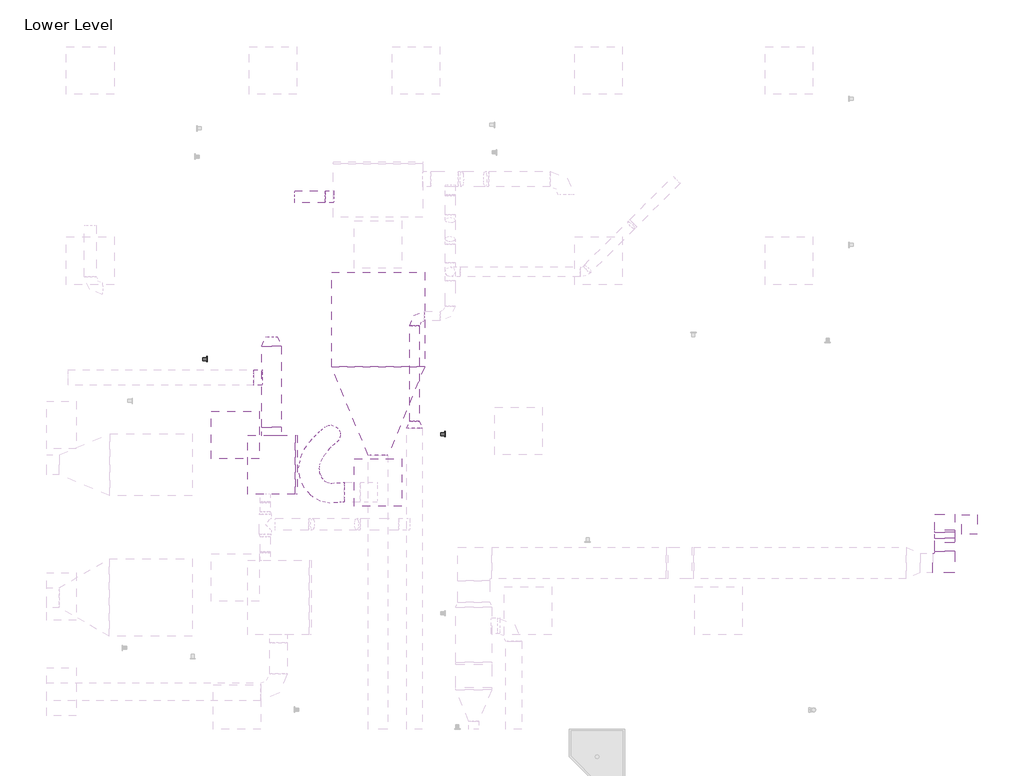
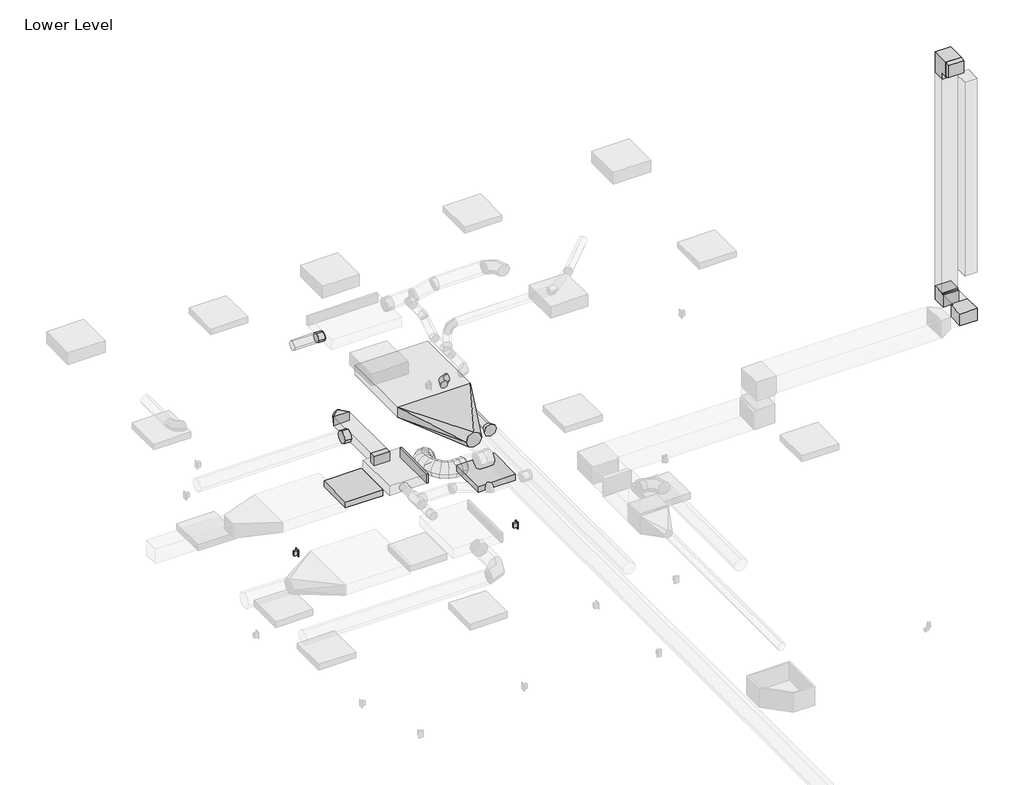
# One storey, part 4 of 5: 12 duct fittings, 9 duct segments, 2 light fixtures, 2 switching devices.
"""IFC4 building model written with IfcOpenShell, lengths in millimetres."""

from ifc_helpers import new_model, si_unit, point, frame, frame_2d, origin, place, context, project, spatial, polyline, circle_curve, ellipse_curve, trimmed, segment, composite_curve, outline, extrude, transform, mapped, element, save
from ifc_brep_helpers import plane_surface, cylinder_surface, advanced_brep
from components import rectangular_elbow_mitered_transition_standard_34e7224c, rectangular_elbow_mitered_standard_f09b78ec, rectangular_elbow_mitered_standard_d7b64f5d, rectangular_endcap_standard_43f25f61, rectangular_takeoff_standard_c6066038, rectangular_transition_angle_45_degree_c4f24900, rectangular_to_round_transition_angle_45_degree_c21d7c10, rectangular_to_round_transition_angle_45_degree_677d3a23, round_elbow_1_d_c80420c1, round_takeoff_standard_d3b0d0f9, round_takeoff_standard_0a2b6d05, round_transition_angle_45_degree_a4d0e481, troffer_corner_insert_2x2_3lamp_e67c7f8f, duplex_receptacle_countertop_10251bba

model = new_model("IFC4")

# Units and contexts
model_context = context("Model", 3, world=origin())
ifc_project = project(units=[si_unit("LENGTHUNIT", "METRE", prefix="MILLI")], contexts=[model_context])

# Site, building, storey
site = spatial("IfcSite", under=ifc_project)
building = spatial("IfcBuilding", under=site)
storey = spatial("IfcBuildingStorey", under=building, Name="Lower Level", Elevation=29972.0)

# Duct fittings
placement = place(None, origin())
rectangular_elbow_mitered_transition_standard_shape = rectangular_elbow_mitered_transition_standard_34e7224c(model_context)
element("IfcDuctFitting", 1, ObjectType="Rectangular Elbow - Mitered - Transition : Standard", at=placement, inside=storey, context=model_context, shape_type="MappedRepresentation", body=[
    mapped(rectangular_elbow_mitered_transition_standard_shape, transform((-6347.3126806, 7505.3293332, 37693.6), x_axis=(0.0, 0.0, 1.0), y_axis=(0.0, -1.0, 0.0), z_axis=(1.0, 0.0, 0.0))),
])
rectangular_elbow_mitered_standard_shape = rectangular_elbow_mitered_standard_f09b78ec(model_context)
element("IfcDuctFitting", 2, ObjectType="Rectangular Elbow - Mitered : Standard", at=placement, inside=storey, context=model_context, shape_type="MappedRepresentation", body=[
    mapped(rectangular_elbow_mitered_standard_shape, transform((-6347.3126806, 6984.6293332, 33629.6), x_axis=(1.0, 0.0, 0.0), y_axis=(0.0, 1.0, 0.0), z_axis=(0.0, 0.0, 1.0))),
])
rectangular_elbow_mitered_standard_2_shape = rectangular_elbow_mitered_standard_d7b64f5d(model_context)
element("IfcDuctFitting", 3, ObjectType="Rectangular Elbow - Mitered : Standard", at=placement, inside=storey, context=model_context, shape_type="MappedRepresentation", body=[
    mapped(rectangular_elbow_mitered_standard_2_shape, transform((-6347.3126806, 7505.3293332, 33629.6), x_axis=(0.0, 0.0, -1.0), y_axis=(0.0, -1.0, 0.0), z_axis=(-1.0, 0.0, 0.0))),
])
rectangular_endcap_standard_shape = rectangular_endcap_standard_43f25f61(model_context)
element("IfcDuctFitting", 4, ObjectType="Rectangular Endcap : Standard", at=placement, inside=storey, context=model_context, shape_type="MappedRepresentation", body=[
    mapped(rectangular_endcap_standard_shape, transform((-14665.2337034, 8243.4520797, 33121.6), x_axis=(1.0, 0.0, 0.0), y_axis=(0.0, 1.0, 0.0), z_axis=(0.0, 0.0, 1.0))),
])
rectangular_takeoff_standard_shape = rectangular_takeoff_standard_c6066038(model_context)
element("IfcDuctFitting", 5, ObjectType="Rectangular Takeoff : Standard", at=placement, inside=storey, context=model_context, shape_type="MappedRepresentation", body=[
    mapped(rectangular_takeoff_standard_shape, transform((-14970.033703, 8618.7395797, 33121.6), x_axis=(0.0, 1.0, 0.0), y_axis=(1.0, 0.0, 0.0), z_axis=(0.0, 0.0, -1.0))),
])
rectangular_transition_angle_45_degree_shape = rectangular_transition_angle_45_degree_c4f24900(model_context)
element("IfcDuctFitting", 6, ObjectType="Rectangular Transition - Angle : 45 Degree", at=placement, inside=storey, context=model_context, shape_type="MappedRepresentation", body=[
    mapped(rectangular_transition_angle_45_degree_shape, transform((-6347.3126806, 7302.1293332, 37693.6), x_axis=(0.0, -1.0, 0.0), y_axis=(1.0, 0.0, 0.0), z_axis=(0.0, 0.0, 1.0))),
])
rectangular_to_round_transition_angle_45_degree_shape = rectangular_to_round_transition_angle_45_degree_c21d7c10(model_context)
element("IfcDuctFitting", 7, ObjectType="Rectangular to Round Transition - Angle : 45 Degree", at=placement, inside=storey, context=model_context, shape_type="MappedRepresentation", body=[
    mapped(rectangular_to_round_transition_angle_45_degree_shape, transform((-13605.5079607, 9497.2083308, 33125.965625), x_axis=(0.0, -1.0, 0.0), y_axis=(1.0, 0.0, 0.0), z_axis=(0.0, 0.0, 1.0))),
])
rectangular_to_round_transition_angle_45_degree_2_shape = rectangular_to_round_transition_angle_45_degree_677d3a23(model_context)
element("IfcDuctFitting", 8, ObjectType="Rectangular to Round Transition - Angle : 45 Degree", at=placement, inside=storey, context=model_context, shape_type="MappedRepresentation", body=[
    mapped(rectangular_to_round_transition_angle_45_degree_2_shape, transform((-14970.033703, 9761.7395797, 33121.6), x_axis=(0.0, 1.0, 0.0), y_axis=(-1.0, 0.0, 0.0), z_axis=(0.0, 0.0, 1.0))),
])
round_elbow_1_d_shape = round_elbow_1_d_c80420c1(model_context)
element("IfcDuctFitting", 9, ObjectType="Round Elbow : 1 D", at=placement, inside=storey, context=model_context, shape_type="MappedRepresentation", body=[
    mapped(round_elbow_1_d_shape, transform((-13138.544811, 10147.8938374, 32918.4), x_axis=(-1.0, 0.0, 0.0), y_axis=(0.0, -1.0, 0.0), z_axis=(0.0, 0.0, 1.0))),
])
round_takeoff_standard_shape = round_takeoff_standard_d3b0d0f9(model_context)
element("IfcDuctFitting", 10, ObjectType="Round Takeoff : Standard", at=placement, inside=storey, context=model_context, shape_type="MappedRepresentation", body=[
    mapped(round_takeoff_standard_shape, transform((-15097.033703, 9360.8945005, 33121.6), x_axis=(-1.0, 0.0, 0.0), y_axis=(0.0, 1.0, 0.0), z_axis=(0.0, 0.0, -1.0))),
])
round_takeoff_standard_2_shape = round_takeoff_standard_0a2b6d05(model_context)
element("IfcDuctFitting", 11, ObjectType="Round Takeoff : Standard", at=placement, inside=storey, context=model_context, shape_type="MappedRepresentation", body=[
    mapped(round_takeoff_standard_2_shape, transform((-14180.8079607, 11673.8820005, 33121.6), x_axis=(-1.0, 0.0, 0.0), y_axis=(0.0, 1.0, 0.0), z_axis=(0.0, 0.0, -1.0))),
])
round_transition_angle_45_degree_shape = round_transition_angle_45_degree_a4d0e481(model_context)
element("IfcDuctFitting", 12, ObjectType="Round Transition - Angle : 45 Degree", at=placement, inside=storey, context=model_context, shape_type="MappedRepresentation", body=[
    mapped(round_transition_angle_45_degree_shape, transform((-13138.544811, 8801.6938374, 32918.4), x_axis=(0.0, -1.0, 0.0), y_axis=(1.0, 0.0, 0.0), z_axis=(0.0, 0.0, 1.0))),
])

# Duct segments
element("IfcDuctSegment", 13, ObjectType="Flex - Round", at=placement, inside=storey, context=model_context, shape_type="AdvancedBrep", body=[
    advanced_brep(
    [(-14037.3079605, 7763.6991771, 33125.8664063), (-14037.3079605, 7890.6991771, 32998.8664063), (-14037.3079605, 8017.6991771, 33125.8664063), (-14037.3079605, 7890.6991771, 33252.8664063), (-14040.9920083, 7763.6991771, 33125.8664063), (-14045.0423151, 7890.6991771, 32998.8664063), (-14050.0146519, 8017.6991771, 33125.8664063), (-14045.9643451, 7890.6991771, 33252.8664063), (-14321.2846893, 8695.563435, 32769.175), (-14145.4265263, 8732.0587291, 32769.175), (-14108.9312321, 8556.2005661, 32769.175), (-14284.7893951, 8519.7052719, 32769.175), (-14119.58986, 7758.1081083, 33125.2950512), (-14126.5972662, 7884.8977546, 32998.2735551), (-14135.1998695, 8011.6395151, 33125.2471654), (-14128.1924633, 7884.8498688, 33252.2686616), (-14225.5060669, 7752.5984317, 33124.7320137), (-14218.0674383, 7880.1395492, 32997.7873109), (-14208.9395831, 8007.803634, 33124.8551742), (-14216.3782117, 7880.2625165, 33251.799877), (-14349.2226435, 7775.3196166, 33127.0502738), (-14306.7437824, 7896.4254154, 32999.4489704), (-14255.7287503, 8016.3967049, 33125.7319318), (-14298.2076115, 7895.2909061, 33253.3332352), (-14462.7192682, 7846.2863307, 33133.252861), (-14384.307358, 7944.9240568, 33003.6878175), (-14294.1283697, 8040.4070649, 33127.8304699), (-14372.5402799, 7941.7693389, 33257.3955134), (-14547.8206041, 7947.8223241, 33138.4069089), (-14443.8431141, 8015.9572793, 33007.2935205), (-14330.9025979, 8084.2830834, 33130.0576516), (-14434.880088, 8016.1481282, 33261.17104), (-14602.6772442, 8069.2170113, 33138.0158328), (-14481.2164139, 8098.6623089, 33007.0270841), (-14356.2082048, 8140.2829811, 33129.8772464), (-14477.6690352, 8110.8376835, 33260.8659951), (-14621.3719284, 8202.6166104, 33127.1461156), (-14493.0254609, 8182.9280887, 33000.1609076), (-14364.2698133, 8197.8081757, 33125.1899565), (-14492.6162808, 8217.4966974, 33252.1751645), (-14598.480399, 8330.6774108, 33102.2923605), (-14478.7118444, 8263.0019522, 32984.6203504), (-14353.5761466, 8257.6311563, 33113.5796456), (-14473.3447013, 8325.3066149, 33231.2516557), (-14548.4441978, 8440.3669796, 33065.8906429), (-14444.5039259, 8337.9926934, 32959.7338292), (-14323.1698818, 8324.2878967, 33091.4588563), (-14427.1101536, 8426.6621829, 33197.6156701), (-14486.5511669, 8530.9053424, 33019.9282394), (-14398.9643943, 8404.6088306, 32925.915703), (-14276.7252307, 8392.2280608, 33056.968579), (-14364.3120032, 8518.5245726, 33150.9811154), (-14423.7636394, 8602.7999632, 32965.1804845), (-14352.0530385, 8458.3245011, 32885.011219), (-14222.2419806, 8454.6139001, 33009.4617613), (-14293.9525816, 8599.0893622, 33089.6310268), (-14370.0613539, 8654.7547782, 32903.1223169), (-14314.1877161, 8494.9576872, 32841.254189), (-14168.702514, 8506.4111943, 32947.5917468), (-14224.5761518, 8666.2082853, 33009.4598747), (-14333.5480554, 8685.9686114, 32835.2414671), (-14290.0874716, 8515.5600717, 32796.4500998), (-14126.965206, 8542.0908351, 32869.9990872), (-14170.4257899, 8712.4993749, 32908.7904545), (-14321.2846893, 8695.563435, 32790.7822465), (-14284.7893951, 8519.7052719, 32777.2426207), (-14108.9312321, 8556.2005661, 32804.6192872), (-14145.4265263, 8732.0587291, 32818.158913)],
    [
        (0, 1, circle_curve(frame((-14037.3079605, 7890.6991771, 33125.8664063), z_axis=(1.0, 0.0, 0.0), x_axis=(0.0, -1.0, 0.0)), 127.0)),
        (1, 2, circle_curve(frame((-14037.3079605, 7890.6991771, 33125.8664063), z_axis=(1.0, 0.0, 0.0), x_axis=(0.0, -1.0, 0.0)), 127.0)),
        (2, 3, circle_curve(frame((-14037.3079605, 7890.6991771, 33125.8664063), z_axis=(1.0, 0.0, 0.0), x_axis=(0.0, -1.0, 0.0)), 127.0)),
        (3, 0, circle_curve(frame((-14037.3079605, 7890.6991771, 33125.8664063), z_axis=(1.0, 0.0, 0.0), x_axis=(0.0, -1.0, 0.0)), 127.0)),
        (0, 4),
        (4, 5, ellipse_curve(frame((-14045.5033301, 7890.6991771, 33125.8664063), z_axis=(0.9993631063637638, 0.03549959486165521, 0.0036277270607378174), x_axis=(0.03568447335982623, -0.9941854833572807, -0.10159647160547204)), 127.080937, 127.0)),
        (5, 1),
        (5, 6, ellipse_curve(frame((-14045.5033301, 7890.6991771, 33125.8664063), z_axis=(0.9993631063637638, 0.03549959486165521, 0.0036277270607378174), x_axis=(0.03568447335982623, -0.9941854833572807, -0.10159647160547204)), 127.080937, 127.0)),
        (6, 2),
        (6, 7, ellipse_curve(frame((-14045.5033301, 7890.6991771, 33125.8664063), z_axis=(0.9993631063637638, 0.03549959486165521, 0.0036277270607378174), x_axis=(0.03568447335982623, -0.9941854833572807, -0.10159647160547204)), 127.080937, 127.0)),
        (7, 3),
        (7, 4, ellipse_curve(frame((-14045.5033301, 7890.6991771, 33125.8664063), z_axis=(0.9993631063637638, 0.03549959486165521, 0.0036277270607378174), x_axis=(0.03568447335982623, -0.9941854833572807, -0.10159647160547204)), 127.080937, 127.0)),
        (8, 9, circle_curve(frame((-14215.1079607, 8625.8820005, 32769.175), z_axis=(0.0, 0.0, -1.0), x_axis=(-0.8360372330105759, 0.5486727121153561, 0.0)), 127.0)),
        (9, 10, circle_curve(frame((-14215.1079607, 8625.8820005, 32769.175), z_axis=(0.0, 0.0, -1.0), x_axis=(-0.8360372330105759, 0.5486727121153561, 0.0)), 127.0)),
        (10, 11, circle_curve(frame((-14215.1079607, 8625.8820005, 32769.175), z_axis=(0.0, 0.0, -1.0), x_axis=(-0.8360372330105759, 0.5486727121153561, 0.0)), 127.0)),
        (11, 8, circle_curve(frame((-14215.1079607, 8625.8820005, 32769.175), z_axis=(0.0, 0.0, -1.0), x_axis=(-0.8360372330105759, 0.5486727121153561, 0.0)), 127.0)),
        (4, 12),
        (12, 13, ellipse_curve(frame((-14127.3948648, 7884.8738117, 33125.2711083), z_axis=(0.9980901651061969, 0.06145391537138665, 0.0062800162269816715), x_axis=(-0.06177396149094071, 0.9929191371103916, 0.10146706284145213)), 127.0058168, 127.0)),
        (13, 5),
        (13, 14, ellipse_curve(frame((-14127.3948648, 7884.8738117, 33125.2711083), z_axis=(0.9980901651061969, 0.06145391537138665, 0.0062800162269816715), x_axis=(-0.06177396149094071, 0.9929191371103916, 0.10146706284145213)), 127.0058168, 127.0)),
        (14, 6),
        (14, 15, ellipse_curve(frame((-14127.3948648, 7884.8738117, 33125.2711083), z_axis=(0.9980901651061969, 0.06145391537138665, 0.0062800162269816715), x_axis=(-0.06177396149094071, 0.9929191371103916, 0.10146706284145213)), 127.0058168, 127.0)),
        (15, 7),
        (15, 12, ellipse_curve(frame((-14127.3948648, 7884.8738117, 33125.2711083), z_axis=(0.9980901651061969, 0.06145391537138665, 0.0062800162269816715), x_axis=(-0.06177396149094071, 0.9929191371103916, 0.10146706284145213)), 127.0058168, 127.0)),
        (12, 16),
        (16, 17, ellipse_curve(frame((-14217.222825, 7880.2010329, 33124.793594), z_axis=(0.9978781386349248, -0.06477343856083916, -0.0066047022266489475), x_axis=(0.06510929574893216, 0.9927206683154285, 0.10132351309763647)), 127.8802283, 127.0)),
        (17, 13),
        (17, 18, ellipse_curve(frame((-14217.222825, 7880.2010329, 33124.793594), z_axis=(0.9978781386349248, -0.06477343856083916, -0.0066047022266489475), x_axis=(0.06510929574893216, 0.9927206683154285, 0.10132351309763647)), 127.8802283, 127.0)),
        (18, 14),
        (18, 19, ellipse_curve(frame((-14217.222825, 7880.2010329, 33124.793594), z_axis=(0.9978781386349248, -0.06477343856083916, -0.0066047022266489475), x_axis=(0.06510929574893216, 0.9927206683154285, 0.10132351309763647)), 127.8802283, 127.0)),
        (19, 15),
        (19, 16, ellipse_curve(frame((-14217.222825, 7880.2010329, 33124.793594), z_axis=(0.9978781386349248, -0.06477343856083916, -0.0066047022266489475), x_axis=(0.06510929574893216, 0.9927206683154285, 0.10132351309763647)), 127.8802283, 127.0)),
        (16, 20),
        (20, 21, ellipse_curve(frame((-14302.4756969, 7895.8581608, 33126.3911028), z_axis=(0.9317749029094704, -0.36153868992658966, -0.03294398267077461), x_axis=(0.3630167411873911, 0.9288276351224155, 0.0741489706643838)), 129.3023413, 127.0)),
        (21, 17),
        (21, 22, ellipse_curve(frame((-14302.4756969, 7895.8581608, 33126.3911028), z_axis=(0.9317749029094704, -0.36153868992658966, -0.03294398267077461), x_axis=(0.3630167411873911, 0.9288276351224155, 0.0741489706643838)), 129.3023413, 127.0)),
        (22, 18),
        (22, 23, ellipse_curve(frame((-14302.4756969, 7895.8581608, 33126.3911028), z_axis=(0.9317749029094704, -0.36153868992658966, -0.03294398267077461), x_axis=(0.3630167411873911, 0.9288276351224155, 0.0741489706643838)), 129.3023413, 127.0)),
        (23, 19),
        (23, 20, ellipse_curve(frame((-14302.4756969, 7895.8581608, 33126.3911028), z_axis=(0.9317749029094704, -0.36153868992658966, -0.03294398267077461), x_axis=(0.3630167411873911, 0.9288276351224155, 0.0741489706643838)), 129.3023413, 127.0)),
        (20, 24),
        (24, 25, ellipse_curve(frame((-14378.423819, 7943.3466978, 33130.5416655), z_axis=(0.7537108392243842, -0.655790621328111, -0.04311185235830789), x_axis=(0.6554451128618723, 0.7548711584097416, -0.02369046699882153)), 128.5837899, 127.0)),
        (25, 21),
        (25, 26, ellipse_curve(frame((-14378.423819, 7943.3466978, 33130.5416655), z_axis=(0.7537108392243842, -0.655790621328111, -0.04311185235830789), x_axis=(0.6554451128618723, 0.7548711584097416, -0.02369046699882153)), 128.5837899, 127.0)),
        (26, 22),
        (26, 27, ellipse_curve(frame((-14378.423819, 7943.3466978, 33130.5416655), z_axis=(0.7537108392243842, -0.655790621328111, -0.04311185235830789), x_axis=(0.6554451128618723, 0.7548711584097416, -0.02369046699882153)), 128.5837899, 127.0)),
        (27, 23),
        (27, 24, ellipse_curve(frame((-14378.423819, 7943.3466978, 33130.5416655), z_axis=(0.7537108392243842, -0.655790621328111, -0.04311185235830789), x_axis=(0.6554451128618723, 0.7548711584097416, -0.02369046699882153)), 128.5837899, 127.0)),
        (24, 28),
        (28, 29, ellipse_curve(frame((-14439.361601, 8016.0527037, 33134.2322802), z_axis=(0.5318975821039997, -0.846614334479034, -0.01814196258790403), x_axis=(0.8354693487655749, 0.5281489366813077, -0.1518211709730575)), 128.2213297, 127.0)),
        (29, 25),
        (29, 30, ellipse_curve(frame((-14439.361601, 8016.0527037, 33134.2322802), z_axis=(0.5318975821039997, -0.846614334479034, -0.01814196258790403), x_axis=(0.8354693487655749, 0.5281489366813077, -0.1518211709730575)), 128.2213297, 127.0)),
        (30, 26),
        (30, 31, ellipse_curve(frame((-14439.361601, 8016.0527037, 33134.2322802), z_axis=(0.5318975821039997, -0.846614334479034, -0.01814196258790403), x_axis=(0.8354693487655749, 0.5281489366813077, -0.1518211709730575)), 128.2213297, 127.0)),
        (31, 27),
        (31, 28, ellipse_curve(frame((-14439.361601, 8016.0527037, 33134.2322802), z_axis=(0.5318975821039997, -0.846614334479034, -0.01814196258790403), x_axis=(0.8354693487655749, 0.5281489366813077, -0.1518211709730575)), 128.2213297, 127.0)),
        (28, 32),
        (32, 33, ellipse_curve(frame((-14479.4427245, 8104.7499962, 33133.9465396), z_axis=(0.2780879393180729, -0.9596307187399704, 0.04214239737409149), x_axis=(0.9295867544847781, 0.2578125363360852, -0.2634410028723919)), 128.3964684, 127.0)),
        (33, 29),
        (33, 34, ellipse_curve(frame((-14479.4427245, 8104.7499962, 33133.9465396), z_axis=(0.2780879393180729, -0.9596307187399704, 0.04214239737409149), x_axis=(0.9295867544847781, 0.2578125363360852, -0.2634410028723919)), 128.3964684, 127.0)),
        (34, 30),
        (34, 35, ellipse_curve(frame((-14479.4427245, 8104.7499962, 33133.9465396), z_axis=(0.2780879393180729, -0.9596307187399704, 0.04214239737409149), x_axis=(0.9295867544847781, 0.2578125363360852, -0.2634410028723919)), 128.3964684, 127.0)),
        (35, 31),
        (35, 32, ellipse_curve(frame((-14479.4427245, 8104.7499962, 33133.9465396), z_axis=(0.2780879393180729, -0.9596307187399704, 0.04214239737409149), x_axis=(0.9295867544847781, 0.2578125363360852, -0.2634410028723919)), 128.3964684, 127.0)),
        (32, 36),
        (36, 37, ellipse_curve(frame((-14492.8208709, 8200.212393, 33126.1680361), z_axis=(-0.017491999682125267, -0.9905676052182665, 0.1359038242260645), x_axis=(0.9436698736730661, -0.061275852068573, -0.32516524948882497)), 128.7621713, 127.0)),
        (37, 33),
        (37, 38, ellipse_curve(frame((-14492.8208709, 8200.212393, 33126.1680361), z_axis=(-0.017491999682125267, -0.9905676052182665, 0.1359038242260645), x_axis=(0.9436698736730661, -0.061275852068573, -0.32516524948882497)), 128.7621713, 127.0)),
        (38, 34),
        (38, 39, ellipse_curve(frame((-14492.8208709, 8200.212393, 33126.1680361), z_axis=(-0.017491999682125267, -0.9905676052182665, 0.1359038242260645), x_axis=(0.9436698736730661, -0.061275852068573, -0.32516524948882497)), 128.7621713, 127.0)),
        (39, 35),
        (39, 36, ellipse_curve(frame((-14492.8208709, 8200.212393, 33126.1680361), z_axis=(-0.017491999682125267, -0.9905676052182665, 0.1359038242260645), x_axis=(0.9436698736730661, -0.061275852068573, -0.32516524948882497)), 128.7621713, 127.0)),
        (36, 40),
        (40, 41, ellipse_curve(frame((-14476.0282728, 8294.1542836, 33107.936003), z_axis=(-0.2875960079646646, -0.9270750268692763, 0.24045879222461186), x_axis=(0.8492076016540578, -0.3629290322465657, -0.38357393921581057)), 128.1238941, 127.0)),
        (41, 37),
        (41, 42, ellipse_curve(frame((-14476.0282728, 8294.1542836, 33107.936003), z_axis=(-0.2875960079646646, -0.9270750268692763, 0.24045879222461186), x_axis=(0.8492076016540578, -0.3629290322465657, -0.38357393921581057)), 128.1238941, 127.0)),
        (42, 38),
        (42, 43, ellipse_curve(frame((-14476.0282728, 8294.1542836, 33107.936003), z_axis=(-0.2875960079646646, -0.9270750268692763, 0.24045879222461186), x_axis=(0.8492076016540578, -0.3629290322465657, -0.38357393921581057)), 128.1238941, 127.0)),
        (43, 39),
        (43, 40, ellipse_curve(frame((-14476.0282728, 8294.1542836, 33107.936003), z_axis=(-0.2875960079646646, -0.9270750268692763, 0.24045879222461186), x_axis=(0.8492076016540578, -0.3629290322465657, -0.38357393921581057)), 128.1238941, 127.0)),
        (40, 44),
        (44, 45, ellipse_curve(frame((-14435.8070398, 8382.3274382, 33078.6747496), z_axis=(-0.4610156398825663, -0.8199465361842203, 0.3393409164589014), x_axis=(0.643111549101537, -0.5722056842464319, -0.5089088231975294)), 127.5864377, 127.0)),
        (45, 41),
        (45, 46, ellipse_curve(frame((-14435.8070398, 8382.3274382, 33078.6747496), z_axis=(-0.4610156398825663, -0.8199465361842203, 0.3393409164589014), x_axis=(0.643111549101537, -0.5722056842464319, -0.5089088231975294)), 127.5864377, 127.0)),
        (46, 42),
        (46, 47, ellipse_curve(frame((-14435.8070398, 8382.3274382, 33078.6747496), z_axis=(-0.4610156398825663, -0.8199465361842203, 0.3393409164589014), x_axis=(0.643111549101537, -0.5722056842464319, -0.5089088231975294)), 127.5864377, 127.0)),
        (47, 43),
        (47, 44, ellipse_curve(frame((-14435.8070398, 8382.3274382, 33078.6747496), z_axis=(-0.4610156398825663, -0.8199465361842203, 0.3393409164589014), x_axis=(0.643111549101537, -0.5722056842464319, -0.5089088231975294)), 127.5864377, 127.0)),
        (44, 48),
        (48, 49, ellipse_curve(frame((-14381.6381988, 8461.5667016, 33038.4484092), z_axis=(-0.547358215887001, -0.7097243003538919, 0.4434979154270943), x_axis=(0.30780649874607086, -0.663509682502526, -0.6819164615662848)), 127.4228424, 127.0)),
        (49, 45),
        (49, 50, ellipse_curve(frame((-14381.6381988, 8461.5667016, 33038.4484092), z_axis=(-0.547358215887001, -0.7097243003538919, 0.4434979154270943), x_axis=(0.30780649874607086, -0.663509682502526, -0.6819164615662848)), 127.4228424, 127.0)),
        (50, 46),
        (50, 51, ellipse_curve(frame((-14381.6381988, 8461.5667016, 33038.4484092), z_axis=(-0.547358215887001, -0.7097243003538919, 0.4434979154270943), x_axis=(0.30780649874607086, -0.663509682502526, -0.6819164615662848)), 127.4228424, 127.0)),
        (51, 47),
        (51, 48, ellipse_curve(frame((-14381.6381988, 8461.5667016, 33038.4484092), z_axis=(-0.547358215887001, -0.7097243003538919, 0.4434979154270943), x_axis=(0.30780649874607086, -0.663509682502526, -0.6819164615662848)), 127.4228424, 127.0)),
        (48, 52),
        (52, 53, ellipse_curve(frame((-14323.00281, 8528.7069316, 32987.3211229), z_axis=(-0.5641673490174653, -0.5966933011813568, 0.5706770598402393), x_axis=(-0.09558938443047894, -0.6393261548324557, -0.7629709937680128)), 127.548613, 127.0)),
        (53, 49),
        (53, 54, ellipse_curve(frame((-14323.00281, 8528.7069316, 32987.3211229), z_axis=(-0.5641673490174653, -0.5966933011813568, 0.5706770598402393), x_axis=(-0.09558938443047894, -0.6393261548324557, -0.7629709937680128)), 127.548613, 127.0)),
        (54, 50),
        (54, 55, ellipse_curve(frame((-14323.00281, 8528.7069316, 32987.3211229), z_axis=(-0.5641673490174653, -0.5966933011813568, 0.5706770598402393), x_axis=(-0.09558938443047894, -0.6393261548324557, -0.7629709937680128)), 127.548613, 127.0)),
        (55, 51),
        (55, 52, ellipse_curve(frame((-14323.00281, 8528.7069316, 32987.3211229), z_axis=(-0.5641673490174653, -0.5966933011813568, 0.5706770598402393), x_axis=(-0.09558938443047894, -0.6393261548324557, -0.7629709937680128)), 127.548613, 127.0)),
        (52, 56),
        (56, 57, ellipse_curve(frame((-14269.3819339, 8580.5829863, 32925.3570319), z_axis=(-0.500371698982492, -0.4591510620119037, 0.7340357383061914), x_axis=(-0.4305526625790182, -0.603587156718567, -0.6710491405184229)), 128.1238502, 127.0)),
        (57, 53),
        (57, 58, ellipse_curve(frame((-14269.3819339, 8580.5829863, 32925.3570319), z_axis=(-0.500371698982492, -0.4591510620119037, 0.7340357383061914), x_axis=(-0.4305526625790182, -0.603587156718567, -0.6710491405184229)), 128.1238502, 127.0)),
        (58, 54),
        (58, 59, ellipse_curve(frame((-14269.3819339, 8580.5829863, 32925.3570319), z_axis=(-0.500371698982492, -0.4591510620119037, 0.7340357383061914), x_axis=(-0.4305526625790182, -0.603587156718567, -0.6710491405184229)), 128.1238502, 127.0)),
        (59, 55),
        (59, 56, ellipse_curve(frame((-14269.3819339, 8580.5829863, 32925.3570319), z_axis=(-0.500371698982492, -0.4591510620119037, 0.7340357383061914), x_axis=(-0.4305526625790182, -0.603587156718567, -0.6710491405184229)), 128.1238502, 127.0)),
        (56, 60),
        (60, 61, ellipse_curve(frame((-14230.2566307, 8614.0297233, 32852.6202772), z_axis=(-0.353151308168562, -0.2923703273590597, 0.888709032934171), x_axis=(-0.6413411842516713, -0.6159431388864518, -0.4574882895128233)), 128.251455, 127.0)),
        (61, 57),
        (61, 62, ellipse_curve(frame((-14230.2566307, 8614.0297233, 32852.6202772), z_axis=(-0.353151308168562, -0.2923703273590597, 0.888709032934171), x_axis=(-0.6413411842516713, -0.6159431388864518, -0.4574882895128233)), 128.251455, 127.0)),
        (62, 58),
        (62, 63, ellipse_curve(frame((-14230.2566307, 8614.0297233, 32852.6202772), z_axis=(-0.353151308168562, -0.2923703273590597, 0.888709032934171), x_axis=(-0.6413411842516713, -0.6159431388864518, -0.4574882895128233)), 128.251455, 127.0)),
        (63, 59),
        (63, 60, ellipse_curve(frame((-14230.2566307, 8614.0297233, 32852.6202772), z_axis=(-0.353151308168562, -0.2923703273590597, 0.888709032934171), x_axis=(-0.6413411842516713, -0.6159431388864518, -0.4574882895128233)), 128.251455, 127.0)),
        (60, 64),
        (64, 65, ellipse_curve(frame((-14215.1079607, 8625.8820005, 32797.7007668), z_axis=(-0.13203347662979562, -0.1033026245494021, 0.9858477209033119), x_axis=(-0.776439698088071, -0.6074842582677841, -0.1676432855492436)), 128.823141, 127.0)),
        (65, 61),
        (65, 66, ellipse_curve(frame((-14215.1079607, 8625.8820005, 32797.7007668), z_axis=(-0.13203347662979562, -0.1033026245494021, 0.9858477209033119), x_axis=(-0.776439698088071, -0.6074842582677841, -0.1676432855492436)), 128.823141, 127.0)),
        (66, 62),
        (66, 67, ellipse_curve(frame((-14215.1079607, 8625.8820005, 32797.7007668), z_axis=(-0.13203347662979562, -0.1033026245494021, 0.9858477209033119), x_axis=(-0.776439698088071, -0.6074842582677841, -0.1676432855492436)), 128.823141, 127.0)),
        (67, 63),
        (67, 64, ellipse_curve(frame((-14215.1079607, 8625.8820005, 32797.7007668), z_axis=(-0.13203347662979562, -0.1033026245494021, 0.9858477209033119), x_axis=(-0.776439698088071, -0.6074842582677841, -0.1676432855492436)), 128.823141, 127.0)),
        (64, 8),
        (11, 65),
        (10, 66),
        (9, 67),
    ],
    [
        plane_surface(frame((-14037.3079605, 7890.6991771, 32998.8664063), z_axis=(1.0, 0.0, 0.0), x_axis=(0.0, -1.0, 0.0))),
        cylinder_surface(frame((-14037.3079605, 7890.6991771, 33125.8664063), z_axis=(1.0, 0.0, 0.0), x_axis=(0.0, -1.0, 0.0)), 127.0),
        plane_surface(frame((-14215.1079607, 8498.8820005, 32769.175), z_axis=(0.0, 0.0, -1.0), x_axis=(-1.0, 0.0, 0.0))),
        cylinder_surface(frame((-14045.5033301, 7890.6991771, 33125.8664063), z_axis=(0.9974532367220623, 0.0709539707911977, 0.007250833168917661), x_axis=(0.0709539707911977, -0.9974795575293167, 0.00025756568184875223)), 127.0),
        cylinder_surface(frame((-14127.3948648, 7884.8738117, 33125.2711083), z_axis=(0.9986356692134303, 0.05194823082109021, 0.005308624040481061), x_axis=(0.05194823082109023, -0.9986497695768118, 0.00013798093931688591)), 127.0),
        cylinder_surface(frame((-14217.222825, 7880.2010329, 33124.793594), z_axis=(0.983383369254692, -0.18060340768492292, -0.018427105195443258), x_axis=(-0.18060342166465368, -0.9835545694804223, 0.0016771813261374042)), 127.0),
        cylinder_surface(frame((-14302.4756969, 7895.8581608, 33126.3911028), z_axis=(0.8469843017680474, -0.5295989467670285, -0.04628766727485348), x_axis=(-0.5295643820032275, -0.8481539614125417, 0.01401510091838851)), 127.0),
        cylinder_surface(frame((-14378.423819, 7943.3466978, 33130.5416655), z_axis=(0.6418701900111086, -0.7658273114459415, -0.03887400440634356), x_axis=(-0.7654288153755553, -0.6429324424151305, 0.02750641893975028)), 127.0),
        cylinder_surface(frame((-14439.361601, 8016.0527037, 33134.2322802), z_axis=(0.41179214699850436, -0.9112730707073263, 0.002935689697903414), x_axis=(-0.9108358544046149, -0.4114899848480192, 0.0324659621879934)), 127.0),
        cylinder_surface(frame((-14479.4427245, 8104.7499962, 33133.9465396), z_axis=(0.1383346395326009, -0.9871140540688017, 0.0804324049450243), x_axis=(-0.990343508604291, -0.13712358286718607, 0.020417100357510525)), 127.0),
        cylinder_surface(frame((-14492.8208709, 8200.212393, 33126.1680361), z_axis=(-0.1728398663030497, -0.9669083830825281, 0.18765542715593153), x_axis=(-0.9848885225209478, 0.17179092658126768, -0.021965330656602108)), 127.0),
        cylinder_surface(frame((-14476.0282728, 8294.1542836, 33107.936003), z_axis=(-0.39730660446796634, -0.8709771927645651, 0.28904358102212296), x_axis=(-0.916610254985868, 0.3918881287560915, -0.07905273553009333)), 127.0),
        cylinder_surface(frame((-14435.8070398, 8382.3274382, 33078.6747496), z_axis=(-0.5204866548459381, -0.7613782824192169, 0.3865187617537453), x_axis=(-0.8479940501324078, 0.5139265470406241, -0.12955923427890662)), 127.0),
        cylinder_surface(frame((-14381.6381988, 8461.5667016, 33038.4484092), z_axis=(-0.5705970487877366, -0.6533599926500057, 0.497533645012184), x_axis=(-0.8020694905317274, 0.5734739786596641, -0.1667696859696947)), 127.0),
        cylinder_surface(frame((-14323.00281, 8528.7069316, 32987.3211229), z_axis=(-0.5528844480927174, -0.5348936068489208, 0.6389112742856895), x_axis=(-0.7849845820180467, 0.5915438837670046, -0.18405173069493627)), 127.0),
        cylinder_surface(frame((-14269.3819339, 8580.5829863, 32925.3570319), z_axis=(-0.43908083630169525, -0.37535354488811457, 0.8162828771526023), x_axis=(-0.7989194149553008, 0.5787570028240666, -0.16360959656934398)), 127.0),
        cylinder_surface(frame((-14230.2566307, 8614.0297233, 32852.6202772), z_axis=(-0.2603298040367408, -0.20368131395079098, 0.9437914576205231), x_axis=(-0.8218553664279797, 0.5597685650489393, -0.1058910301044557)), 127.0),
        cylinder_surface(frame((-14215.1079607, 8625.8820005, 32797.7007668), z_axis=(0.0, 0.0, 1.0000000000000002), x_axis=(-0.8360372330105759, 0.5486727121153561, 0.0)), 127.0),
    ],
    [
        (0, [[1, 2, 3, 4]]),
        (1, [[-1, 5, 6, 7]]),
        (1, [[-2, -7, 8, 9]]),
        (1, [[-3, -9, 10, 11]]),
        (1, [[-4, -11, 12, -5]]),
        (2, [[13, 14, 15, 16]]),
        (3, [[-6, 17, 18, 19]]),
        (3, [[-8, -19, 20, 21]]),
        (3, [[-10, -21, 22, 23]]),
        (3, [[-12, -23, 24, -17]]),
        (4, [[-18, 25, 26, 27]]),
        (4, [[-20, -27, 28, 29]]),
        (4, [[-22, -29, 30, 31]]),
        (4, [[-24, -31, 32, -25]]),
        (5, [[-26, 33, 34, 35]]),
        (5, [[-28, -35, 36, 37]]),
        (5, [[-30, -37, 38, 39]]),
        (5, [[-32, -39, 40, -33]]),
        (6, [[-34, 41, 42, 43]]),
        (6, [[-36, -43, 44, 45]]),
        (6, [[-38, -45, 46, 47]]),
        (6, [[-40, -47, 48, -41]]),
        (7, [[-42, 49, 50, 51]]),
        (7, [[-44, -51, 52, 53]]),
        (7, [[-46, -53, 54, 55]]),
        (7, [[-48, -55, 56, -49]]),
        (8, [[-50, 57, 58, 59]]),
        (8, [[-52, -59, 60, 61]]),
        (8, [[-54, -61, 62, 63]]),
        (8, [[-56, -63, 64, -57]]),
        (9, [[-58, 65, 66, 67]]),
        (9, [[-60, -67, 68, 69]]),
        (9, [[-62, -69, 70, 71]]),
        (9, [[-64, -71, 72, -65]]),
        (10, [[-66, 73, 74, 75]]),
        (10, [[-68, -75, 76, 77]]),
        (10, [[-70, -77, 78, 79]]),
        (10, [[-72, -79, 80, -73]]),
        (11, [[-74, 81, 82, 83]]),
        (11, [[-76, -83, 84, 85]]),
        (11, [[-78, -85, 86, 87]]),
        (11, [[-80, -87, 88, -81]]),
        (12, [[-82, 89, 90, 91]]),
        (12, [[-84, -91, 92, 93]]),
        (12, [[-86, -93, 94, 95]]),
        (12, [[-88, -95, 96, -89]]),
        (13, [[-90, 97, 98, 99]]),
        (13, [[-92, -99, 100, 101]]),
        (13, [[-94, -101, 102, 103]]),
        (13, [[-96, -103, 104, -97]]),
        (14, [[-98, 105, 106, 107]]),
        (14, [[-100, -107, 108, 109]]),
        (14, [[-102, -109, 110, 111]]),
        (14, [[-104, -111, 112, -105]]),
        (15, [[-106, 113, 114, 115]]),
        (15, [[-108, -115, 116, 117]]),
        (15, [[-110, -117, 118, 119]]),
        (15, [[-112, -119, 120, -113]]),
        (16, [[-114, 121, 122, 123]]),
        (16, [[-116, -123, 124, 125]]),
        (16, [[-118, -125, 126, 127]]),
        (16, [[-120, -127, 128, -121]]),
        (17, [[-122, 129, -16, 130]]),
        (17, [[-124, -130, -15, 131]]),
        (17, [[-126, -131, -14, 132]]),
        (17, [[-128, -132, -13, -129]]),
    ],
),
])
element("IfcDuctSegment", 14, ObjectType="Mitered Elbows / Taps", at=placement, inside=storey, context=model_context, shape_type="SweptSolid", body=[
    extrude(outline(polyline([(-14843.033703, 8720.3395797), (-15097.033703, 8720.3395797), (-15097.033703, 9761.7395797), (-14843.033703, 9761.7395797), (-14843.033703, 8720.3395797)])), frame((0.0, 0.0, 33045.4), z_axis=(0.0, 0.0, 1.0), x_axis=(1.0, 0.0, 0.0)), (0.0, 0.0, 1.0), 152.4),
])
element("IfcDuctSegment", 15, ObjectType="Mitered Elbows / Taps", at=placement, inside=storey, context=model_context, shape_type="SweptSolid", body=[
    extrude(outline(polyline([(-14665.2337034, 8618.7395797), (-14665.2337034, 7868.1645797), (-15274.8337025, 7868.1645797), (-15274.8337025, 8618.7395797), (-14665.2337034, 8618.7395797)])), frame((0.0, 0.0, 33041.6792969), z_axis=(0.0, 0.0, 1.0), x_axis=(1.0, 0.0, 0.0)), (0.0, 0.0, 1.0), 159.8414062),
])
element("IfcDuctSegment", 16, ObjectType="Mitered Elbows / Taps", at=placement, inside=storey, context=model_context, shape_type="SweptSolid", body=[
    extrude(outline(polyline([(-13010.2079607, 9497.2083308), (-14200.8079607, 9497.2083308), (-14200.8079607, 10705.4194302), (-13010.2079607, 10705.4194302), (-13010.2079607, 9497.2083308)])), frame((0.0, 0.0, 33041.465625), z_axis=(0.0, 0.0, 1.0), x_axis=(1.0, 0.0, 0.0)), (0.0, 0.0, 1.0), 169.0),
])
element("IfcDuctSegment", 17, ObjectType="Mitered Elbows / Taps", at=placement, inside=storey, context=model_context, shape_type="SweptSolid", body=[
    extrude(outline(polyline([(-6131.4204015, 7605.1195005), (-5928.2204015, 7605.1195005), (-5928.2204015, 7351.1195005), (-6131.4204015, 7351.1195005), (-6131.4204015, 7605.1195005)])), frame((0.0, 0.0, 33959.8), z_axis=(0.0, 0.0, 1.0), x_axis=(1.0, 0.0, 0.0)), (0.0, 0.0, 1.0), 3352.8),
])
element("IfcDuctSegment", 18, ObjectType="Mitered Elbows / Taps", at=placement, inside=storey, context=model_context, shape_type="SweptSolid", body=[
    extrude(outline(polyline([(-6474.3126806, 7403.7293332), (-6474.3126806, 7606.9293332), (-6220.3126806, 7606.9293332), (-6220.3126806, 7403.7293332), (-6474.3126806, 7403.7293332)])), frame((0.0, 0.0, 33756.6), z_axis=(0.0, 0.0, 1.0), x_axis=(1.0, 0.0, 0.0)), (0.0, 0.0, 1.0), 3708.4),
])
element("IfcDuctSegment", 19, ObjectType="Mitered Elbows / Taps", at=placement, inside=storey, context=model_context, shape_type="SweptSolid", body=[
    extrude(outline(polyline([(-6220.3126806, 7137.0293332), (-6474.3126806, 7137.0293332), (-6474.3126806, 7378.3293332), (-6220.3126806, 7378.3293332), (-6220.3126806, 7137.0293332)])), frame((0.0, 0.0, 33528.0), z_axis=(0.0, 0.0, 1.0), x_axis=(1.0, 0.0, 0.0)), (0.0, 0.0, 1.0), 203.2),
])
element("IfcDuctSegment", 20, ObjectType="Taps / Short Radius", at=placement, inside=storey, context=model_context, shape_type="SweptSolid", body=[
    extrude(outline(composite_curve([segment(trimmed(circle_curve(frame_2d((32918.4, -13138.544811)), 63.5), [point((32918.4, -13202.044811))], [point((32854.9, -13138.544811))], False, "CARTESIAN"), True, "CONTINUOUS"), segment(trimmed(circle_curve(frame_2d((32918.4, -13138.544811)), 63.5), [point((32854.9, -13138.544811))], [point((32918.4, -13075.044811))], False, "CARTESIAN"), True, "CONTINUOUS"), segment(trimmed(circle_curve(frame_2d((32918.4, -13138.544811)), 63.5), [point((32918.4, -13075.044811))], [point((32981.9, -13138.544811))], False, "CARTESIAN"), True, "CONTINUOUS"), segment(trimmed(circle_curve(frame_2d((32918.4, -13138.544811)), 63.5), [point((32981.9, -13138.544811))], [point((32918.4, -13202.044811))], False, "CARTESIAN"), True, "CONTINUOUS")], self_intersect=False)), frame((0.0, 8801.6938374, 0.0), z_axis=(0.0, 1.0, 0.0), x_axis=(0.0, 0.0, 1.0)), (0.0, 0.0, 1.0), 1219.2),
])
element("IfcDuctSegment", 21, ObjectType="Taps / Short Radius", at=placement, inside=storey, context=model_context, shape_type="SweptSolid", body=[
    extrude(outline(composite_curve([segment(trimmed(circle_curve(frame_2d((11673.8820005, 33121.6)), 76.2), [point((11750.0820005, 33121.6))], [point((11673.8820005, 33045.4))], False, "CARTESIAN"), True, "CONTINUOUS"), segment(trimmed(circle_curve(frame_2d((11673.8820005, 33121.6)), 76.2), [point((11673.8820005, 33045.4))], [point((11597.6820005, 33121.6))], False, "CARTESIAN"), True, "CONTINUOUS"), segment(trimmed(circle_curve(frame_2d((11673.8820005, 33121.6)), 76.2), [point((11597.6820005, 33121.6))], [point((11673.8820005, 33197.8))], False, "CARTESIAN"), True, "CONTINUOUS"), segment(trimmed(circle_curve(frame_2d((11673.8820005, 33121.6)), 76.2), [point((11673.8820005, 33197.8))], [point((11750.0820005, 33121.6))], False, "CARTESIAN"), True, "CONTINUOUS")], self_intersect=False)), frame((-14672.3079607, 0.0, 0.0), z_axis=(1.0, 0.0, 0.0), x_axis=(0.0, 1.0, 0.0)), (0.0, 0.0, 1.0), 389.9),
])

# Light fixtures
troffer_corner_insert_2x2_3lamp_shape = troffer_corner_insert_2x2_3lamp_e67c7f8f(model_context)
element("IfcLightFixture", 22, ObjectType="Troffer Corner Insert : 2x2 3Lamp", at=placement, inside=storey, context=model_context, shape_type="MappedRepresentation", body=[
    mapped(troffer_corner_insert_2x2_3lamp_shape, transform((-13605.5079607, 8016.2820005, 30276.8), x_axis=(1.0, 0.0, 0.0), y_axis=(0.0, 1.0, 0.0), z_axis=(0.0, 0.0, 1.0))),
])
element("IfcLightFixture", 23, ObjectType="Troffer Corner Insert : 2x2 3Lamp", at=placement, inside=storey, context=model_context, shape_type="MappedRepresentation", body=[
    mapped(troffer_corner_insert_2x2_3lamp_shape, transform((-15434.3079607, 8625.8820005, 30276.8), x_axis=(1.0, 0.0, 0.0), y_axis=(0.0, 1.0, 0.0), z_axis=(0.0, 0.0, 1.0))),
])

# Switching devices
duplex_receptacle_countertop_shape = duplex_receptacle_countertop_10251bba(model_context)
element("IfcSwitchingDevice", 24, ObjectType="Lighting Switches : Single Pole", at=placement, inside=storey, context=model_context, shape_type="MappedRepresentation", body=[
    mapped(duplex_receptacle_countertop_shape, transform((-12749.8454607, 8634.7735671, 31191.2), x_axis=(0.0, 1.0, 0.0), y_axis=(0.0, 0.0, 1.0), z_axis=(1.0, 0.0, 0.0))),
])
element("IfcSwitchingDevice", 25, ObjectType="Lighting Switches : Three Way", at=placement, inside=storey, context=model_context, shape_type="MappedRepresentation", body=[
    mapped(duplex_receptacle_countertop_shape, transform((-15797.8454607, 9596.9090528, 31191.2), x_axis=(0.0, 1.0, 0.0), y_axis=(0.0, 0.0, 1.0), z_axis=(1.0, 0.0, 0.0))),
])

save(model, "model.ifc")
